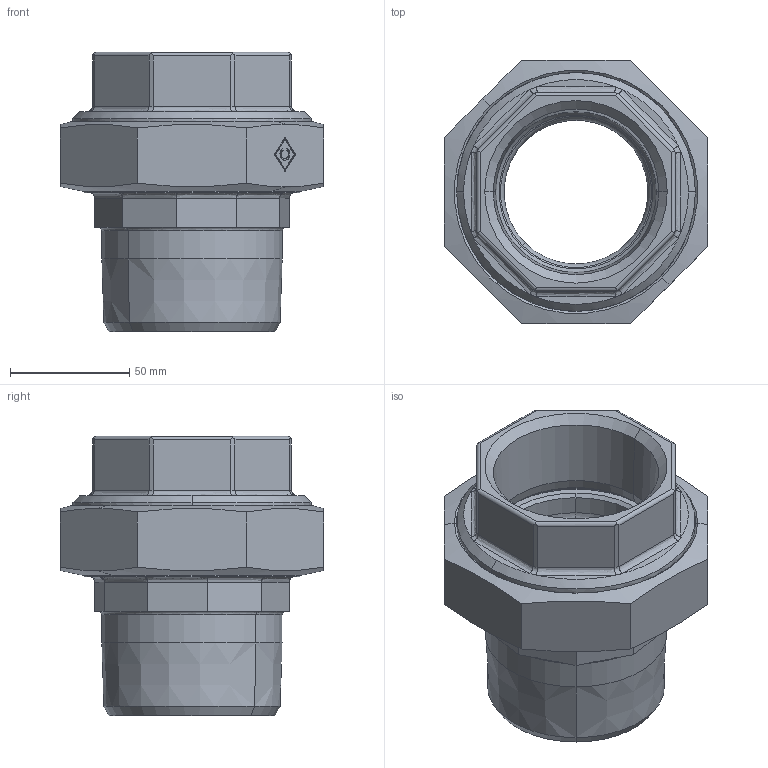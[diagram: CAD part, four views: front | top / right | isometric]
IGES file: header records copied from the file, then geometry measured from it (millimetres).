
Global section: file name: No Iges File Name specified; native system: AutoDesk Inventor R12.0; preprocessor: AutoDesk Inventor Iges Exporter R12.0; date: 20090918.090152; units: millimetre
Bounding box: 110.74 x 110.74 x 117.3 mm (x, y, z)
Volume: 343304.8 mm3; surface area: 84206.1 mm2
Topology: 1 solids, 2 shells, 162 faces, 394 edges, 244 vertices
Faces by surface type: plane 58, revolution 42, bspline 28, cylinder 24, cone 6, torus 4
